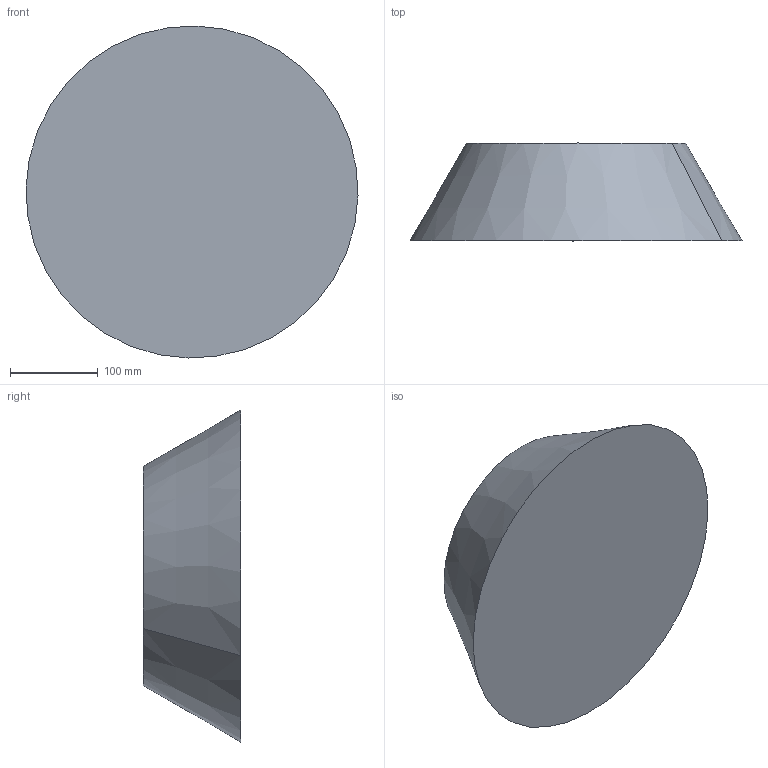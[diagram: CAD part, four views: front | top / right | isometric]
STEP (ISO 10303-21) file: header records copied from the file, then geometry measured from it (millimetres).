
FILE_DESCRIPTION(('CATIA V5 STEP Exchange'),'2;1');
FILE_NAME('C:\_Andres\UNIVERSIDAD\IQS\ASIGNATURAS\DAO\EXF\EXF-16172c\2inicio\Espinel_Roig_Ej09_v11.stp','2017-03-05T22:13:11+00:00',('none'),('none'),'CATIA Version 5-6 Release 2014 SP1 HF18','CATIA V5 STEP AP203','none');
FILE_SCHEMA(('CONFIG_CONTROL_DESIGN'));
Length unit declared in the file: millimetre
Products named in the file (1): Espinel_Roig_Ej09_v11
Bounding box: 377.89 x 111 x 377.89 mm (x, y, z)
Volume: 8702313.2 mm3; surface area: 289841.6 mm2
Topology: 1 solids, 2 shells, 8 faces, 12 edges, 8 vertices
Faces by surface type: plane 4, cone 2, cylinder 2
Entity records: 205 total; most frequent: CARTESIAN_POINT 27, DIRECTION 24, ORIENTED_EDGE 24, AXIS2_PLACEMENT_3D 15, EDGE_CURVE 12, ADVANCED_FACE 8, CIRCLE 8, EDGE_LOOP 8
